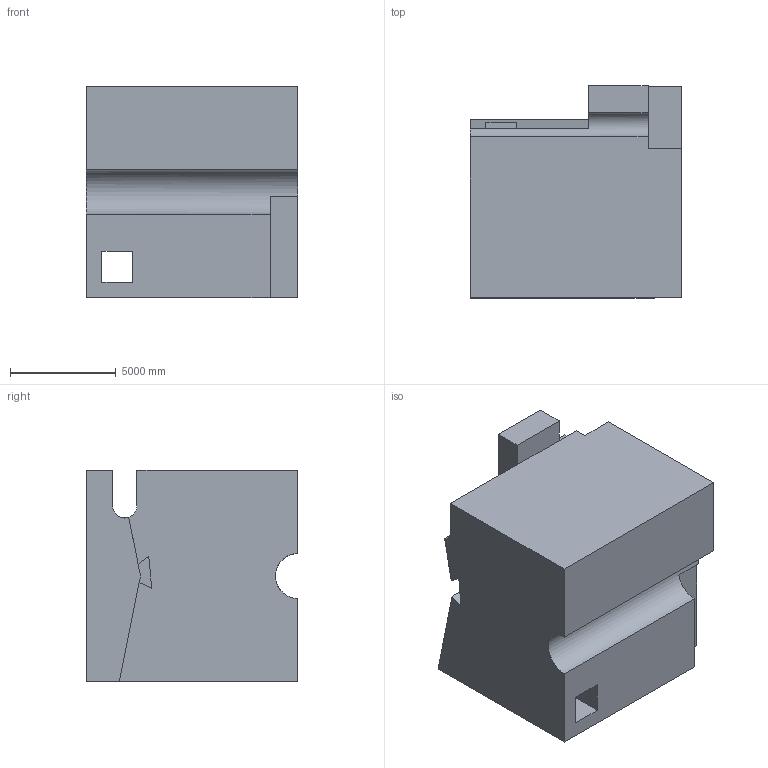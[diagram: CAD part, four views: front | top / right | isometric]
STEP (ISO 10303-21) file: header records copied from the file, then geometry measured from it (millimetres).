
FILE_DESCRIPTION (( 'STEP AP203' ), '1' );
FILE_NAME ('745.STEP', '2022-07-29T12:54:36', ( 'user' ), ( '' ), 'SwSTEP 2.0', 'SolidWorks 2021', '' );
FILE_SCHEMA (( 'CONFIG_CONTROL_DESIGN' ));
Length unit declared in the file: centimetre
Products named in the file (1): 745
Bounding box: 10000 x 10000 x 10000 mm (x, y, z)
Volume: 793338940930.5 mm3; surface area: 653475780.9 mm2
Topology: 1 solids, 1 shells, 35 faces, 99 edges, 66 vertices
Faces by surface type: plane 31, cylinder 4
Entity records: 1206 total; most frequent: CARTESIAN_POINT 201, ORIENTED_EDGE 198, DIRECTION 183, EDGE_CURVE 99, LINE 87, VECTOR 87, VERTEX_POINT 66, AXIS2_PLACEMENT_3D 48
